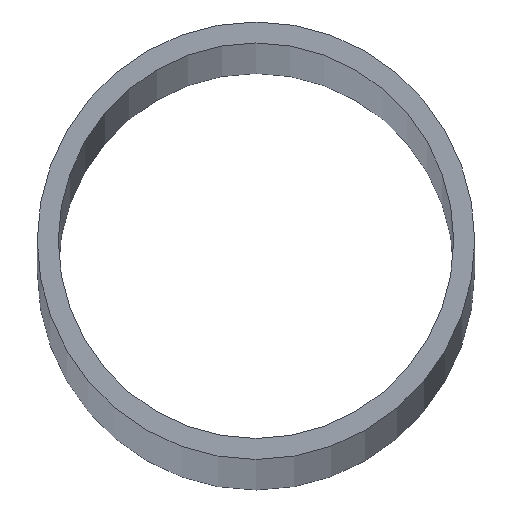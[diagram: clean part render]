
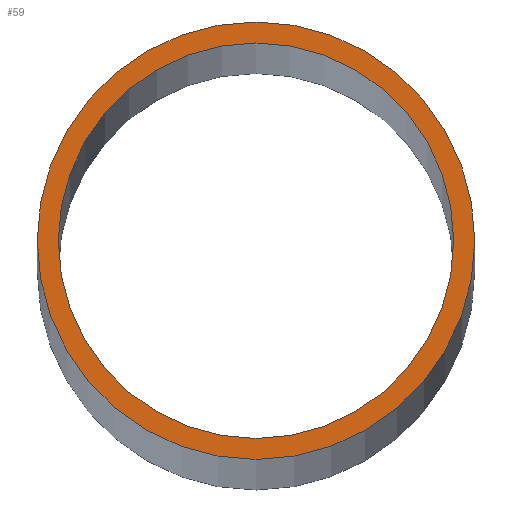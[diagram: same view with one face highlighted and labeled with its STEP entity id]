
A CAD part, top view. The second image highlights one B-rep face of the part: STEP entity #59.
In plain terms, the highlighted planar face has unit normal (0, 0, 1).
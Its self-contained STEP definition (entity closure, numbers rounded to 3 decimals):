
#12=PLANE($,#70);
#16=FACE_BOUND($,#26,.T.);
#17=FACE_BOUND($,#27,.T.);
#26=EDGE_LOOP($,(#46));
#27=EDGE_LOOP($,(#47));
#30=CIRCLE($,#65,33.9);
#32=CIRCLE($,#68,37.5);
#34=VERTEX_POINT($,#92);
#36=VERTEX_POINT($,#97);
#38=EDGE_CURVE($,#34,#34,#30,.T.);
#40=EDGE_CURVE($,#36,#36,#32,.T.);
#46=ORIENTED_EDGE($,*,*,#38,.T.);
#47=ORIENTED_EDGE($,*,*,#40,.F.);
#59=ADVANCED_FACE($,(#16,#17),#12,.F.);
#65=AXIS2_PLACEMENT_3D($,#93,#76,#77);
#68=AXIS2_PLACEMENT_3D($,#98,#82,#83);
#70=AXIS2_PLACEMENT_3D($,#101,#86,#87);
#76=DIRECTION('center_axis',(0.,0.,-1.));
#77=DIRECTION('ref_axis',(-1.,0.,0.));
#82=DIRECTION('center_axis',(0.,0.,-1.));
#83=DIRECTION('ref_axis',(-1.,0.,0.));
#86=DIRECTION('center_axis',(0.,0.,-1.));
#87=DIRECTION('ref_axis',(-1.,0.,0.));
#92=CARTESIAN_POINT('',(33.9,0.,3000.));
#93=CARTESIAN_POINT('Origin',(0.,0.,3000.));
#97=CARTESIAN_POINT('',(37.5,0.,3000.));
#98=CARTESIAN_POINT('Origin',(0.,0.,3000.));
#101=CARTESIAN_POINT('Origin',(0.,0.,3000.));
